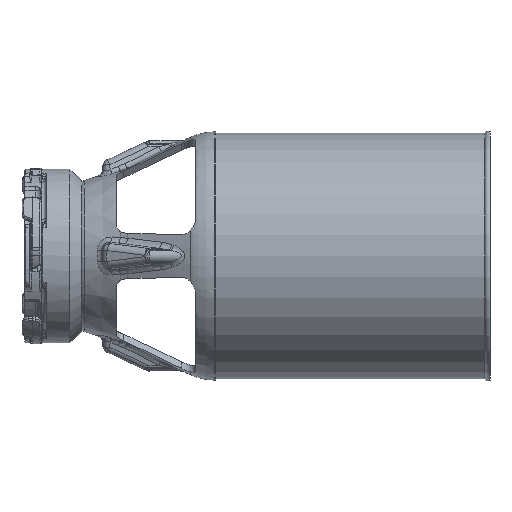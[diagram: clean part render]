
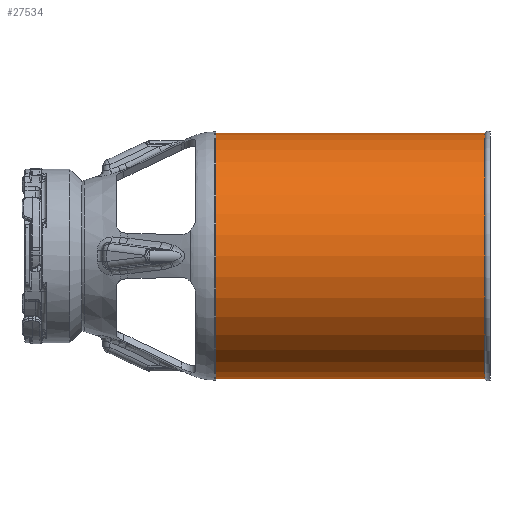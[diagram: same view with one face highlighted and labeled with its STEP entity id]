
A CAD part, front view. The second image highlights one B-rep face of the part: STEP entity #27534.
In plain terms, the highlighted cylindrical face has radius 107.95 mm (diameter 215.9 mm), a partial arc.
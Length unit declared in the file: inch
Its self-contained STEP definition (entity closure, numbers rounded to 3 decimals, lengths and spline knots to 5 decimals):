
#219 = VERTEX_POINT ( 'NONE', #19972 ) ;
#2103 = CARTESIAN_POINT ( 'NONE',  ( 0., 0., 0. ) ) ;
#2143 = VECTOR ( 'NONE', #12177, 39.37008 ) ;
#3025 = CIRCLE ( 'NONE', #32939, 4.25 ) ;
#3417 = CYLINDRICAL_SURFACE ( 'NONE', #4935, 4.25 ) ;
#4727 = EDGE_LOOP ( 'NONE', ( #15305, #20290, #20743, #18042 ) ) ;
#4908 = VERTEX_POINT ( 'NONE', #23230 ) ;
#4935 = AXIS2_PLACEMENT_3D ( 'NONE', #2103, #25174, #21939 ) ;
#6342 = CARTESIAN_POINT ( 'NONE',  ( 0., 0., -4.25 ) ) ;
#7897 = EDGE_CURVE ( 'NONE', #219, #28902, #10512, .T. ) ;
#9611 = FACE_OUTER_BOUND ( 'NONE', #4727, .T. ) ;
#9665 = LINE ( 'NONE', #6342, #2143 ) ;
#10512 = CIRCLE ( 'NONE', #17742, 4.25 ) ;
#10737 = LINE ( 'NONE', #35247, #21875 ) ;
#12177 = DIRECTION ( 'NONE',  ( -1., 0., 0. ) ) ;
#12331 = DIRECTION ( 'NONE',  ( -1., 0., 0. ) ) ;
#13213 = CARTESIAN_POINT ( 'NONE',  ( 14.48128, 0., 0. ) ) ;
#15305 = ORIENTED_EDGE ( 'NONE', *, *, #18090, .F. ) ;
#15640 = VERTEX_POINT ( 'NONE', #33050 ) ;
#15938 = DIRECTION ( 'NONE',  ( -1., 0., 0. ) ) ;
#17357 = DIRECTION ( 'NONE',  ( 0., 0., 1. ) ) ;
#17742 = AXIS2_PLACEMENT_3D ( 'NONE', #23074, #34060, #17357 ) ;
#18042 = ORIENTED_EDGE ( 'NONE', *, *, #7897, .T. ) ;
#18090 = EDGE_CURVE ( 'NONE', #15640, #28902, #9665, .T. ) ;
#19584 = CARTESIAN_POINT ( 'NONE',  ( 5.18182, 0., -4.25 ) ) ;
#19972 = CARTESIAN_POINT ( 'NONE',  ( 5.18182, 0., 4.25 ) ) ;
#20290 = ORIENTED_EDGE ( 'NONE', *, *, #26809, .T. ) ;
#20743 = ORIENTED_EDGE ( 'NONE', *, *, #32877, .T. ) ;
#21875 = VECTOR ( 'NONE', #12331, 39.37008 ) ;
#21939 = DIRECTION ( 'NONE',  ( 0., 0., 1. ) ) ;
#23074 = CARTESIAN_POINT ( 'NONE',  ( 5.18182, 0., 0. ) ) ;
#23230 = CARTESIAN_POINT ( 'NONE',  ( 14.48128, 0., 4.25 ) ) ;
#25174 = DIRECTION ( 'NONE',  ( -1., 0., 0. ) ) ;
#26809 = EDGE_CURVE ( 'NONE', #15640, #4908, #3025, .T. ) ;
#27534 = ADVANCED_FACE ( 'NONE', ( #9611 ), #3417, .T. ) ;
#28902 = VERTEX_POINT ( 'NONE', #19584 ) ;
#29959 = DIRECTION ( 'NONE',  ( 0., 0., 1. ) ) ;
#32877 = EDGE_CURVE ( 'NONE', #4908, #219, #10737, .T. ) ;
#32939 = AXIS2_PLACEMENT_3D ( 'NONE', #13213, #15938, #29959 ) ;
#33050 = CARTESIAN_POINT ( 'NONE',  ( 14.48128, 0., -4.25 ) ) ;
#34060 = DIRECTION ( 'NONE',  ( 1., 0., 0. ) ) ;
#35247 = CARTESIAN_POINT ( 'NONE',  ( 0., 0., 4.25 ) ) ;
